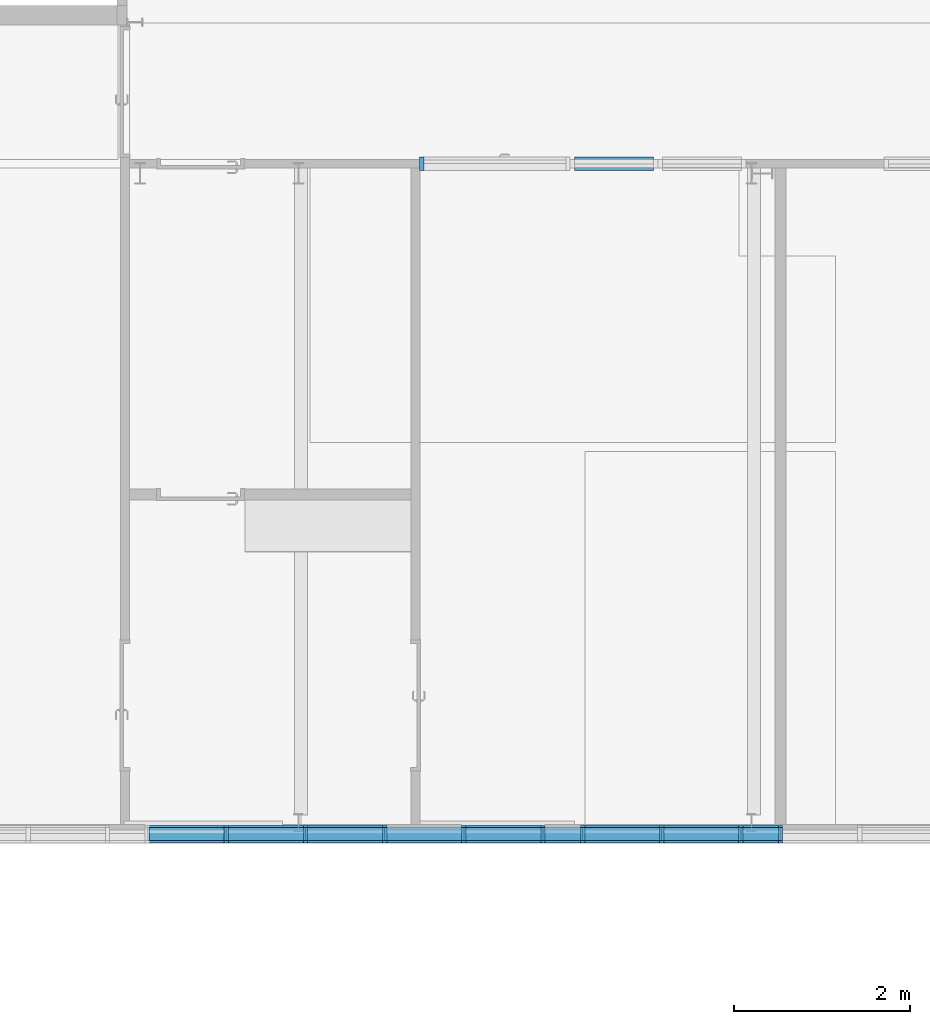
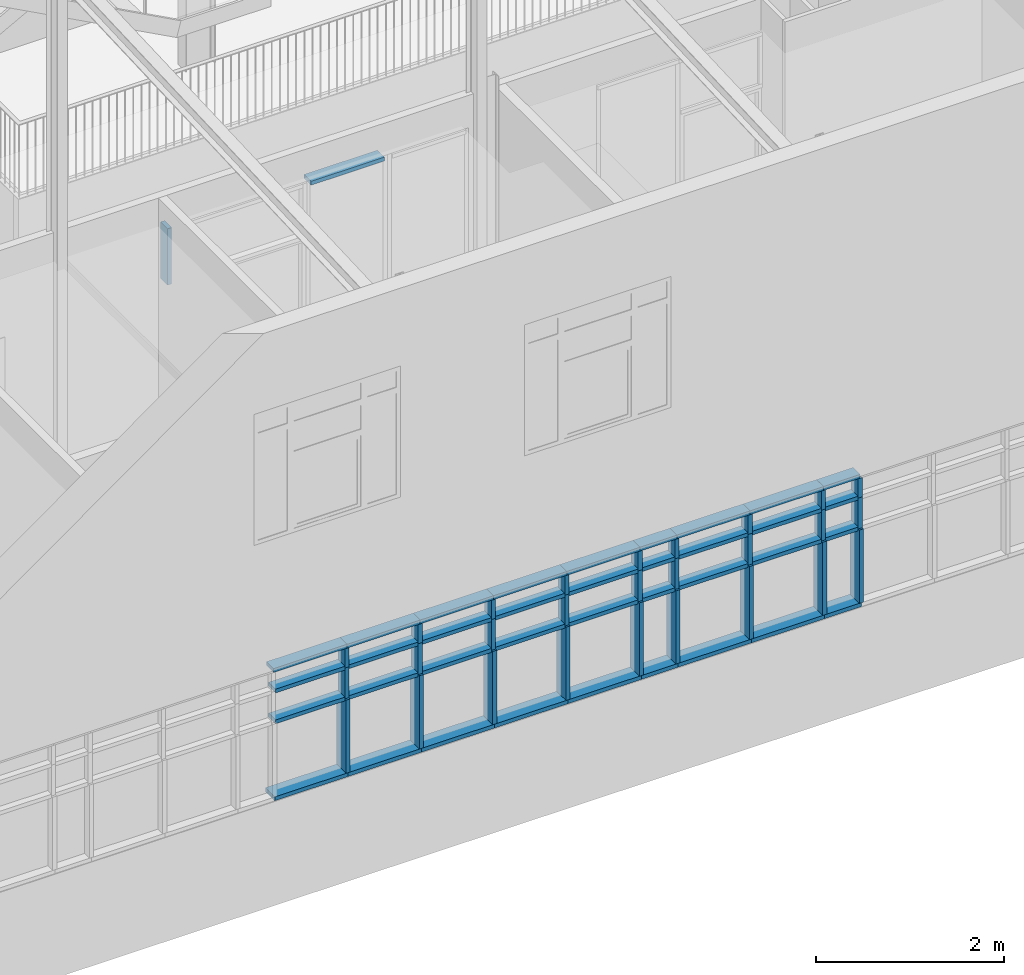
# One storey, part 20 of 137: 65 members, 3 elements without a shape of their own.
"""IFC2X3 building model written with IfcOpenShell, lengths in centimetres."""

import ifcopenshell
import ifcopenshell.guid

model = None  # the IFC model being written
_history = None  # IfcOwnerHistory: only IFC2X3 demands one
_inside = {}  # id of a spatial element -> (the spatial element, [elements in it])
_under = {}  # id of a project, library or spatial element -> (it, [spatial elements below it])
_declared = {}  # id of a project -> (the project, [libraries it declares])
_typed = {}  # id of a type object -> (the type object, [elements of that type])
_made_of = {}  # id of a material, layer set ... -> (it, [elements and type objects made of it])


def new_model(schema):
    """Start an empty IFC model of exactly this schema.

    Asked for "IFC4X3", IfcOpenShell would pick the latest addendum, in which some entities
    have other attributes; the version numbers below select the first issue.
    IFC2X3 requires an IfcOwnerHistory on every rooted entity: one is made here for all.
    """
    global model, _history
    if schema == "IFC4X3":
        model = ifcopenshell.file(schema_version=(4, 3, 0, 0))
    else:
        model = ifcopenshell.file(schema=schema)
    _inside.clear()
    _under.clear()
    _declared.clear()
    _typed.clear()
    _made_of.clear()
    _history = None
    if model.schema == "IFC2X3":
        org = make("IfcOrganization", Name="unknown")
        user = make(
            "IfcPersonAndOrganization",
            ThePerson=make("IfcPerson", FamilyName="unknown"),
            TheOrganization=org,
        )
        app = make(
            "IfcApplication",
            ApplicationDeveloper=org,
            Version="unknown",
            ApplicationFullName="unknown",
            ApplicationIdentifier="unknown",
        )
        _history = make(
            "IfcOwnerHistory",
            OwningUser=user,
            OwningApplication=app,
            ChangeAction="ADDED",
            CreationDate=0,
        )
    return model


def make(cls, **values):
    """One entity of the class cls with the attributes given. An attribute that is None is left unset."""
    return model.create_entity(
        cls, **{name: value for name, value in values.items() if value is not None}
    )


def entity(cls, *values):
    """Any entity or typed value of the class cls, its attributes in the order of the schema. None: left unset."""
    e = model.create_entity(cls)
    for i, value in enumerate(values):
        if value is not None:
            e[i] = value
    return e


def rooted(cls, **values):
    """An entity with a GlobalId (a new one), such as an element, a storey or a relation."""
    return make(cls, GlobalId=ifcopenshell.guid.new(), OwnerHistory=_history, **values)


def si_unit(unit_type, name, prefix=None):
    """IfcSIUnit, for example si_unit("LENGTHUNIT", "METRE", prefix="MILLI")."""
    return make("IfcSIUnit", UnitType=unit_type, Prefix=prefix, Name=name)


def converted_unit(unit_type, name, factor, base, dimensions=None, offset=None):
    """IfcConversionBasedUnit, such as the inch: factor (a typed value) times the base unit."""
    return make(
        "IfcConversionBasedUnit"
        if offset is None
        else "IfcConversionBasedUnitWithOffset",
        ConversionOffset=offset,
        Dimensions=None
        if dimensions is None
        else entity("IfcDimensionalExponents", *dimensions),
        UnitType=unit_type,
        Name=name,
        ConversionFactor=make(
            "IfcMeasureWithUnit", ValueComponent=factor, UnitComponent=base
        ),
    )


def derived_unit(unit_type, elements):
    """IfcDerivedUnit: a product of units, each with its exponent."""
    return make(
        "IfcDerivedUnit",
        Elements=[
            make("IfcDerivedUnitElement", Unit=unit, Exponent=power)
            for unit, power in elements
        ],
        UnitType=unit_type,
    )


def assignment(units):
    """IfcUnitAssignment: the units of a project."""
    return None if units is None else make("IfcUnitAssignment", Units=units)


def point(xyz):
    """IfcCartesianPoint."""
    return None if xyz is None else make("IfcCartesianPoint", Coordinates=xyz)


def direction(xyz):
    """IfcDirection."""
    return None if xyz is None else make("IfcDirection", DirectionRatios=xyz)


def frame(location, z_axis=None, x_axis=None):
    """IfcAxis2Placement3D, a coordinate frame: its origin and axes. An axis left out is left unset."""
    return make(
        "IfcAxis2Placement3D",
        Location=point(location),
        Axis=direction(z_axis),
        RefDirection=direction(x_axis),
    )


def frame_2d(location, x_axis=None):
    """IfcAxis2Placement2D, a coordinate frame in the plane: its origin and x axis."""
    return make(
        "IfcAxis2Placement2D", Location=point(location), RefDirection=direction(x_axis)
    )


def origin():
    """The frame at (0, 0, 0) with its axes left unset."""
    return frame((0.0, 0.0, 0.0))


def origin_2d_with_axis():
    """The frame at (0, 0) in the plane with the x axis (1, 0) written out."""
    return frame_2d((0.0, 0.0), x_axis=(1.0, 0.0))


def place(relative_to, where):
    """IfcLocalPlacement: puts the frame where relative to a parent placement (None: the world)."""
    return make(
        "IfcLocalPlacement", PlacementRelTo=relative_to, RelativePlacement=where
    )


def context(
    kind, dimensions, precision=None, world=None, true_north=None, identifier=None
):
    """IfcGeometricRepresentationContext, for example the 3D "Model" context."""
    return make(
        "IfcGeometricRepresentationContext",
        ContextIdentifier=identifier,
        ContextType=kind,
        CoordinateSpaceDimension=dimensions,
        Precision=precision,
        WorldCoordinateSystem=world,
        TrueNorth=true_north,
    )


def subcontext(parent, identifier, kind, view, scale=None):
    """IfcGeometricRepresentationSubContext, for example "Body" below "Model"."""
    return make(
        "IfcGeometricRepresentationSubContext",
        ContextIdentifier=identifier,
        ContextType=kind,
        ParentContext=parent,
        TargetScale=scale,
        TargetView=view,
    )


def project(units=None, contexts=None):
    """IfcProject with its units and contexts."""
    return rooted(
        "IfcProject",
        Name="project",
        RepresentationContexts=contexts,
        UnitsInContext=assignment(units),
    )


def spatial(cls, under=None, at=None, **own):
    """A site, building, storey or space (cls), placed at a placement, below another one or the project."""
    s = rooted(cls, ObjectPlacement=at, **own)
    if under is not None:
        _under.setdefault(under.id(), (under, []))[1].append(s)
    return s


def profile(cls, at=None, kind="AREA", **sizes):
    """A parametric profile (cls). Its sizes go by their IFC names, for example OverallWidth=200.0."""
    return make(cls, ProfileType=kind, Position=at, **sizes)


def rectangle(**sizes):
    """IfcRectangleProfileDef."""
    return profile("IfcRectangleProfileDef", **sizes)


def extrude(swept, where, along, depth):
    """IfcExtrudedAreaSolid: the profile swept, set in the frame where, extruded along a direction by depth."""
    return make(
        "IfcExtrudedAreaSolid",
        SweptArea=swept,
        Position=where,
        ExtrudedDirection=direction(along),
        Depth=depth,
    )


def shape(context_of_items, identifier, shape_type, items):
    """IfcShapeRepresentation: the items that make up one representation, for example the "Body"."""
    return make(
        "IfcShapeRepresentation",
        ContextOfItems=context_of_items,
        RepresentationIdentifier=identifier,
        RepresentationType=shape_type,
        Items=items,
    )


def material(Name=None, Category=None):
    """IfcMaterial."""
    return make("IfcMaterial", Name=Name, Category=Category)


def made_of(thing, what):
    """Note that an element or type object is made of a material, layer set ...; save() writes the relation."""
    if what is not None:
        _made_of.setdefault(what.id(), (what, []))[1].append(thing)
    return thing


def type_object(cls, material=None, **own):
    """A type object (cls), such as IfcWallType, which elements share."""
    return made_of(rooted(cls, **own), material)


def element(
    cls,
    number,
    at=None,
    inside=None,
    cuts=None,
    type_object=None,
    material=None,
    context=None,
    identifier="Body",
    shape_type=None,
    held_by="IfcProductDefinitionShape",
    body=None,
    shapes=None,
    **own,
):
    """One element of the class cls, such as IfcWall. Its Tag is "e" and its number.

    at: its placement. inside: the storey or other place that contains it. cuts: it is an
    opening in that element (IfcRelVoidsElement). A single representation is given by context,
    identifier, shape_type and body (its items); several are given by shapes. held_by: the class
    of the entity that holds the representations. save() writes the other relations.
    """
    e = rooted(cls, Tag="e%d" % number, ObjectPlacement=at, **own)
    if body is not None:
        shapes = [shape(context, identifier, shape_type, body)]
    if shapes is not None:
        e.Representation = make(held_by, Representations=shapes)
    if inside is not None:
        _inside.setdefault(inside.id(), (inside, []))[1].append(e)
    if cuts is not None:
        rooted(
            "IfcRelVoidsElement", RelatingBuildingElement=cuts, RelatedOpeningElement=e
        )
    if type_object is not None:
        _typed.setdefault(type_object.id(), (type_object, []))[1].append(e)
    return made_of(e, material)


def aggregate(whole, parts):
    """IfcRelAggregates: a whole, such as a stair, and the parts it consists of."""
    return rooted("IfcRelAggregates", RelatingObject=whole, RelatedObjects=parts)


def save(model, path):
    """Write the relations noted so far, then the file.

    IfcRelAggregates (storeys below a building ...), IfcRelContainedInSpatialStructure (elements
    in a storey), IfcRelDefinesByType, IfcRelAssociatesMaterial and IfcRelDeclares: one each for
    every whole, place, type object, material and project.
    """
    for whole, parts in _under.values():
        aggregate(whole, parts)
    for where, things in _inside.values():
        rooted(
            "IfcRelContainedInSpatialStructure",
            RelatedElements=things,
            RelatingStructure=where,
        )
    for kind, things in _typed.values():
        rooted("IfcRelDefinesByType", RelatedObjects=things, RelatingType=kind)
    for what, things in _made_of.values():
        rooted("IfcRelAssociatesMaterial", RelatedObjects=things, RelatingMaterial=what)
    for by, libraries in _declared.values():
        rooted("IfcRelDeclares", RelatingContext=by, RelatedDefinitions=libraries)
    model.write(path)


model = new_model("IFC2X3")

# Units and contexts
model_context = context("Model", 3, precision=0.001, world=origin(), true_north=direction((6.12303176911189e-17, 1.0)))
body_context = subcontext(model_context, "Body", "Model", "MODEL_VIEW")
ifc_project = project(units=[si_unit("LENGTHUNIT", "METRE", prefix="CENTI"), si_unit("AREAUNIT", "SQUARE_METRE"), si_unit("VOLUMEUNIT", "CUBIC_METRE"), converted_unit("PLANEANGLEUNIT", "DEGREE", entity("IfcRatioMeasure", 0.0174532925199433), si_unit("PLANEANGLEUNIT", "RADIAN"), dimensions=[0, 0, 0, 0, 0, 0, 0]), si_unit("MASSUNIT", "GRAM", prefix="KILO"), si_unit("TIMEUNIT", "SECOND"), si_unit("FREQUENCYUNIT", "HERTZ"), si_unit("THERMODYNAMICTEMPERATUREUNIT", "DEGREE_CELSIUS"), derived_unit("THERMALTRANSMITTANCEUNIT", [(si_unit("MASSUNIT", "GRAM", prefix="KILO"), 1), (si_unit("THERMODYNAMICTEMPERATUREUNIT", "KELVIN"), -1), (si_unit("TIMEUNIT", "SECOND"), -3)]), derived_unit("VOLUMETRICFLOWRATEUNIT", [(si_unit("LENGTHUNIT", "METRE"), 3), (si_unit("TIMEUNIT", "SECOND"), -1)]), si_unit("ELECTRICCURRENTUNIT", "AMPERE"), si_unit("ELECTRICVOLTAGEUNIT", "VOLT"), si_unit("POWERUNIT", "WATT"), si_unit("FORCEUNIT", "NEWTON", prefix="KILO"), si_unit("ILLUMINANCEUNIT", "LUX"), si_unit("LUMINOUSFLUXUNIT", "LUMEN"), si_unit("LUMINOUSINTENSITYUNIT", "CANDELA"), derived_unit("USERDEFINED", [(si_unit("MASSUNIT", "GRAM", prefix="KILO"), -1), (si_unit("LENGTHUNIT", "METRE"), -2), (si_unit("TIMEUNIT", "SECOND"), 3), (si_unit("LUMINOUSFLUXUNIT", "LUMEN"), 1)]), derived_unit("LINEARVELOCITYUNIT", [(si_unit("LENGTHUNIT", "METRE"), 1), (si_unit("TIMEUNIT", "SECOND"), -1)]), si_unit("PRESSUREUNIT", "PASCAL"), derived_unit("USERDEFINED", [(si_unit("LENGTHUNIT", "METRE"), -2), (si_unit("MASSUNIT", "GRAM", prefix="KILO"), 1), (si_unit("TIMEUNIT", "SECOND"), -2)])], contexts=[model_context])

# Site, building, storey
site_placement = place(None, frame((8.62739174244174, -249.285249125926, 0.0)))
site = spatial("IfcSite", under=ifc_project, at=site_placement, Name="Default", CompositionType="ELEMENT")
building_placement = place(site_placement, origin())
building = spatial("IfcBuilding", under=site, at=building_placement, CompositionType="ELEMENT")
storey_placement = place(building_placement, origin())
storey = spatial("IfcBuildingStorey", under=building, at=storey_placement, Name="RDC", CompositionType="ELEMENT", Elevation=-8.82465566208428e-11)

# Curtain wall, members
curtain_wall_type = type_object("IfcCurtainWallType", Name="Mur-rideau:Simple panneau", PredefinedType="NOTDEFINED")
curtain_wall_1_placement = place(storey_placement, origin())
curtain_wall_1 = element("IfcCurtainWall", 1, at=curtain_wall_1_placement, inside=storey, type_object=curtain_wall_type, Name="Mur-rideau:Simple panneau", ObjectType="Mur-rideau:Simple panneau")
ifc_material = material(Name="Plastique, blanc opaque")
member_1_placement = place(curtain_wall_1_placement, origin())
member_1 = element("IfcMember", 2, at=member_1_placement, material=ifc_material, Name="Mur-rideau:Simple panneau", ObjectType="Mur-rideau:Simple panneau", context=body_context, shape_type="SweptSolid", body=[
    extrude(rectangle(XDim=5.0, YDim=20.0, at=frame_2d((0.0, 2.91322521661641e-13), x_axis=(1.0, 0.0))), frame((874.0, 11.0, 112.500000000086), z_axis=(1.0, 0.0, 0.0), x_axis=(0.0, 0.0, -1.0)), (0.0, 0.0, 1.0), 90.0000000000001),
])
member_2_placement = place(curtain_wall_1_placement, origin())
member_2 = element("IfcMember", 3, at=member_2_placement, material=ifc_material, Name="Mur-rideau:Simple panneau:661", ObjectType="Mur-rideau:Simple panneau:661", context=body_context, shape_type="SweptSolid", body=[
    extrude(rectangle(XDim=5.0, YDim=15.0, at=frame_2d((2.70894418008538e-14, 2.90878432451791e-13), x_axis=(1.0, 0.0))), frame((964.0, 11.0, 277.500000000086), z_axis=(-1.0, 0.0, 0.0), x_axis=(0.0, 0.0, -1.0)), (0.0, 0.0, 1.0), 89.9999999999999),
])
member_3_placement = place(curtain_wall_1_placement, origin())
member_3 = element("IfcMember", 4, at=member_3_placement, material=ifc_material, Name="Mur-rideau:Simple panneau", ObjectType="Mur-rideau:Simple panneau", context=body_context, shape_type="SweptSolid", body=[
    extrude(rectangle(XDim=5.0, YDim=20.0, at=frame_2d((0.0, 2.91322521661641e-13), x_axis=(1.0, 0.0))), frame((964.0, 11.0, 112.500000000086), z_axis=(1.0, 0.0, 0.0), x_axis=(0.0, 0.0, -1.0)), (0.0, 0.0, 1.0), 90.0000000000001),
])
member_4_placement = place(curtain_wall_1_placement, origin())
member_4 = element("IfcMember", 5, at=member_4_placement, material=ifc_material, Name="Mur-rideau:Simple panneau:661", ObjectType="Mur-rideau:Simple panneau:661", context=body_context, shape_type="SweptSolid", body=[
    extrude(rectangle(XDim=5.0, YDim=15.0, at=frame_2d((2.70894418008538e-14, 2.90878432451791e-13), x_axis=(1.0, 0.0))), frame((1054.0, 11.0, 277.500000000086), z_axis=(-1.0, 0.0, 0.0), x_axis=(0.0, 0.0, -1.0)), (0.0, 0.0, 1.0), 89.9999999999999),
])
member_5_placement = place(curtain_wall_1_placement, origin())
member_5 = element("IfcMember", 6, at=member_5_placement, material=ifc_material, Name="Mur-rideau:Simple panneau", ObjectType="Mur-rideau:Simple panneau", context=body_context, shape_type="SweptSolid", body=[
    extrude(rectangle(XDim=5.0, YDim=20.0, at=frame_2d((0.0, 2.91322521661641e-13), x_axis=(1.0, 0.0))), frame((1054.0, 11.0, 112.500000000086), z_axis=(1.0, 0.0, 0.0), x_axis=(0.0, 0.0, -1.0)), (0.0, 0.0, 1.0), 90.0),
])
member_6_placement = place(curtain_wall_1_placement, origin())
member_6 = element("IfcMember", 7, at=member_6_placement, material=ifc_material, Name="Mur-rideau:Simple panneau:661", ObjectType="Mur-rideau:Simple panneau:661", context=body_context, shape_type="SweptSolid", body=[
    extrude(rectangle(XDim=5.0, YDim=15.0, at=frame_2d((2.70894418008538e-14, 2.90878432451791e-13), x_axis=(1.0, 0.0))), frame((1144.0, 11.0, 277.500000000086), z_axis=(-1.0, 0.0, 0.0), x_axis=(0.0, 0.0, -1.0)), (0.0, 0.0, 1.0), 89.9999999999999),
])
member_7_placement = place(curtain_wall_1_placement, origin())
member_7 = element("IfcMember", 8, at=member_7_placement, material=ifc_material, Name="Mur-rideau:Simple panneau", ObjectType="Mur-rideau:Simple panneau", context=body_context, shape_type="SweptSolid", body=[
    extrude(rectangle(XDim=5.0, YDim=20.0, at=frame_2d((0.0, 2.91322521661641e-13), x_axis=(1.0, 0.0))), frame((1144.0, 11.0, 112.500000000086), z_axis=(1.0, 0.0, 0.0), x_axis=(0.0, 0.0, -1.0)), (0.0, 0.0, 1.0), 90.0),
])
member_8_placement = place(curtain_wall_1_placement, origin())
member_8 = element("IfcMember", 9, at=member_8_placement, material=ifc_material, Name="Mur-rideau:Simple panneau:661", ObjectType="Mur-rideau:Simple panneau:661", context=body_context, shape_type="SweptSolid", body=[
    extrude(rectangle(XDim=5.0, YDim=15.0, at=frame_2d((2.70894418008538e-14, 2.90878432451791e-13), x_axis=(1.0, 0.0))), frame((1234.0, 11.0, 277.500000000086), z_axis=(-1.0, 0.0, 0.0), x_axis=(0.0, 0.0, -1.0)), (0.0, 0.0, 1.0), 89.9999999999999),
])
member_9_placement = place(curtain_wall_1_placement, origin())
member_9 = element("IfcMember", 10, at=member_9_placement, material=ifc_material, Name="Mur-rideau:Simple panneau", ObjectType="Mur-rideau:Simple panneau", context=body_context, shape_type="SweptSolid", body=[
    extrude(rectangle(XDim=5.0, YDim=20.0, at=frame_2d((0.0, 2.91322521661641e-13), x_axis=(1.0, 0.0))), frame((1234.0, 11.0, 112.500000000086), z_axis=(1.0, 0.0, 0.0), x_axis=(0.0, 0.0, -1.0)), (0.0, 0.0, 1.0), 90.0),
])
member_10_placement = place(curtain_wall_1_placement, origin())
member_10 = element("IfcMember", 11, at=member_10_placement, material=ifc_material, Name="Mur-rideau:Simple panneau:661", ObjectType="Mur-rideau:Simple panneau:661", context=body_context, shape_type="SweptSolid", body=[
    extrude(rectangle(XDim=5.0, YDim=15.0, at=frame_2d((2.70894418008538e-14, 2.90878432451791e-13), x_axis=(1.0, 0.0))), frame((1324.0, 11.0, 277.500000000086), z_axis=(-1.0, 0.0, 0.0), x_axis=(0.0, 0.0, -1.0)), (0.0, 0.0, 1.0), 89.9999999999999),
])
member_11_placement = place(curtain_wall_1_placement, origin())
member_11 = element("IfcMember", 12, at=member_11_placement, material=ifc_material, Name="Mur-rideau:Simple panneau", ObjectType="Mur-rideau:Simple panneau", context=body_context, shape_type="SweptSolid", body=[
    extrude(rectangle(XDim=5.0, YDim=20.0, at=frame_2d((0.0, 1.45661260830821e-13), x_axis=(1.0, 0.0))), frame((1324.0, 11.0, 112.500000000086), z_axis=(1.0, 0.0, 0.0), x_axis=(0.0, 0.0, -1.0)), (0.0, 0.0, 1.0), 45.0),
])
member_12_placement = place(curtain_wall_1_placement, origin())
member_12 = element("IfcMember", 13, at=member_12_placement, material=ifc_material, Name="Mur-rideau:Simple panneau:661", ObjectType="Mur-rideau:Simple panneau:661", context=body_context, shape_type="SweptSolid", body=[
    extrude(rectangle(XDim=5.0, YDim=15.0, at=frame_2d((2.70894418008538e-14, 1.4521717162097e-13), x_axis=(1.0, 0.0))), frame((1369.0, 11.0, 277.500000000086), z_axis=(-1.0, 0.0, 0.0), x_axis=(0.0, 0.0, -1.0)), (0.0, 0.0, 1.0), 45.0000000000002),
])
member_13_placement = place(curtain_wall_1_placement, origin())
member_13 = element("IfcMember", 14, at=member_13_placement, material=ifc_material, Name="Mur-rideau:Simple panneau", ObjectType="Mur-rideau:Simple panneau", context=body_context, shape_type="SweptSolid", body=[
    extrude(rectangle(XDim=5.0, YDim=20.0, at=frame_2d((0.0, 2.91322521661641e-13), x_axis=(1.0, 0.0))), frame((1369.0, 11.0, 112.500000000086), z_axis=(1.0, 0.0, 0.0), x_axis=(0.0, 0.0, -1.0)), (0.0, 0.0, 1.0), 90.0),
])
member_14_placement = place(curtain_wall_1_placement, origin())
member_14 = element("IfcMember", 15, at=member_14_placement, material=ifc_material, Name="Mur-rideau:Simple panneau:661", ObjectType="Mur-rideau:Simple panneau:661", context=body_context, shape_type="SweptSolid", body=[
    extrude(rectangle(XDim=5.0, YDim=15.0, at=frame_2d((2.70894418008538e-14, 2.92654789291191e-13), x_axis=(1.0, 0.0))), frame((1459.0, 11.0, 277.500000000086), z_axis=(-1.0, 0.0, 0.0), x_axis=(0.0, 0.0, -1.0)), (0.0, 0.0, 1.0), 89.9999999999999),
])
member_15_placement = place(curtain_wall_1_placement, origin())
member_15 = element("IfcMember", 16, at=member_15_placement, material=ifc_material, Name="Mur-rideau:Simple panneau", ObjectType="Mur-rideau:Simple panneau", context=body_context, shape_type="SweptSolid", body=[
    extrude(rectangle(XDim=5.0, YDim=20.0, at=frame_2d((0.0, 2.91322521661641e-13), x_axis=(1.0, 0.0))), frame((1459.0, 11.0, 112.500000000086), z_axis=(1.0, 0.0, 0.0), x_axis=(0.0, 0.0, -1.0)), (0.0, 0.0, 1.0), 90.0),
])
member_16_placement = place(curtain_wall_1_placement, origin())
member_16 = element("IfcMember", 17, at=member_16_placement, material=ifc_material, Name="Mur-rideau:Simple panneau:661", ObjectType="Mur-rideau:Simple panneau:661", context=body_context, shape_type="SweptSolid", body=[
    extrude(rectangle(XDim=5.0, YDim=15.0, at=frame_2d((2.70894418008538e-14, 2.88213897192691e-13), x_axis=(1.0, 0.0))), frame((1549.0, 11.0, 277.500000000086), z_axis=(-1.0, 0.0, 0.0), x_axis=(0.0, 0.0, -1.0)), (0.0, 0.0, 1.0), 89.9999999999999),
])
member_17_placement = place(curtain_wall_1_placement, origin())
member_17 = element("IfcMember", 18, at=member_17_placement, material=ifc_material, Name="Mur-rideau:Simple panneau", ObjectType="Mur-rideau:Simple panneau", context=body_context, shape_type="SweptSolid", body=[
    extrude(rectangle(XDim=5.0, YDim=20.0, at=frame_2d((0.0, 1.4388490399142e-13), x_axis=(1.0, 0.0))), frame((1549.0, 11.0, 112.500000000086), z_axis=(1.0, 0.0, 0.0), x_axis=(0.0, 0.0, -1.0)), (0.0, 0.0, 1.0), 45.0),
])
member_18_placement = place(curtain_wall_1_placement, origin())
member_18 = element("IfcMember", 19, at=member_18_placement, material=ifc_material, Name="Mur-rideau:Simple panneau:661", ObjectType="Mur-rideau:Simple panneau:661", context=body_context, shape_type="SweptSolid", body=[
    extrude(rectangle(XDim=5.0, YDim=15.0, at=frame_2d((2.70894418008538e-14, 1.4432899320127e-13), x_axis=(1.0, 0.0))), frame((1594.0, 11.0, 277.500000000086), z_axis=(-1.0, 0.0, 0.0), x_axis=(0.0, 0.0, -1.0)), (0.0, 0.0, 1.0), 45.0000000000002),
])
member_19_placement = place(curtain_wall_1_placement, origin())
member_19 = element("IfcMember", 20, at=member_19_placement, material=ifc_material, Name="Mur-rideau:Simple panneau:661", ObjectType="Mur-rideau:Simple panneau:661", context=body_context, shape_type="SweptSolid", body=[
    extrude(rectangle(XDim=4.99999999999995, YDim=15.0, at=frame_2d((0.0, 1.30562227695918e-13), x_axis=(1.0, 0.0))), frame((1591.5, 11.0, 250.0), z_axis=(-1.0, 0.0, 0.0), x_axis=(0.0, 0.0, -1.0)), (0.0, 0.0, 1.0), 40.0000000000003),
])
member_20_placement = place(curtain_wall_1_placement, origin())
member_20 = element("IfcMember", 21, at=member_20_placement, material=ifc_material, Name="Mur-rideau:Simple panneau:661", ObjectType="Mur-rideau:Simple panneau:661", context=body_context, shape_type="SweptSolid", body=[
    extrude(rectangle(XDim=4.99999999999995, YDim=15.0, at=frame_2d((0.0, 2.72670774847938e-13), x_axis=(1.0, 0.0))), frame((1546.5, 11.0, 250.0), z_axis=(-1.0, 0.0, 0.0), x_axis=(0.0, 0.0, -1.0)), (0.0, 0.0, 1.0), 85.0),
])
member_21_placement = place(curtain_wall_1_placement, origin())
member_21 = element("IfcMember", 22, at=member_21_placement, material=ifc_material, Name="Mur-rideau:Simple panneau:661", ObjectType="Mur-rideau:Simple panneau:661", context=body_context, shape_type="SweptSolid", body=[
    extrude(rectangle(XDim=4.99999999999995, YDim=15.0, at=frame_2d((0.0, 2.74891220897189e-13), x_axis=(1.0, 0.0))), frame((1456.5, 11.0, 250.0), z_axis=(-1.0, 0.0, 0.0), x_axis=(0.0, 0.0, -1.0)), (0.0, 0.0, 1.0), 85.0),
])
member_22_placement = place(curtain_wall_1_placement, origin())
member_22 = element("IfcMember", 23, at=member_22_placement, material=ifc_material, Name="Mur-rideau:Simple panneau:661", ObjectType="Mur-rideau:Simple panneau:661", context=body_context, shape_type="SweptSolid", body=[
    extrude(rectangle(XDim=4.99999999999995, YDim=15.0, at=frame_2d((0.0, 1.29674049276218e-13), x_axis=(1.0, 0.0))), frame((1366.5, 11.0, 250.0), z_axis=(-1.0, 0.0, 0.0), x_axis=(0.0, 0.0, -1.0)), (0.0, 0.0, 1.0), 40.0000000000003),
])
member_23_placement = place(curtain_wall_1_placement, origin())
member_23 = element("IfcMember", 24, at=member_23_placement, material=ifc_material, Name="Mur-rideau:Simple panneau:661", ObjectType="Mur-rideau:Simple panneau:661", context=body_context, shape_type="SweptSolid", body=[
    extrude(rectangle(XDim=4.99999999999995, YDim=15.0, at=frame_2d((0.0, 2.73558953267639e-13), x_axis=(1.0, 0.0))), frame((1321.5, 11.0, 250.0), z_axis=(-1.0, 0.0, 0.0), x_axis=(0.0, 0.0, -1.0)), (0.0, 0.0, 1.0), 85.0),
])
member_24_placement = place(curtain_wall_1_placement, origin())
member_24 = element("IfcMember", 25, at=member_24_placement, material=ifc_material, Name="Mur-rideau:Simple panneau:661", ObjectType="Mur-rideau:Simple panneau:661", context=body_context, shape_type="SweptSolid", body=[
    extrude(rectangle(XDim=4.99999999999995, YDim=15.0, at=frame_2d((0.0, 2.73558953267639e-13), x_axis=(1.0, 0.0))), frame((1231.5, 11.0, 250.0), z_axis=(-1.0, 0.0, 0.0), x_axis=(0.0, 0.0, -1.0)), (0.0, 0.0, 1.0), 85.0),
])
member_25_placement = place(curtain_wall_1_placement, origin())
member_25 = element("IfcMember", 26, at=member_25_placement, material=ifc_material, Name="Mur-rideau:Simple panneau:661", ObjectType="Mur-rideau:Simple panneau:661", context=body_context, shape_type="SweptSolid", body=[
    extrude(rectangle(XDim=4.99999999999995, YDim=15.0, at=frame_2d((0.0, 2.73558953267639e-13), x_axis=(1.0, 0.0))), frame((1141.5, 11.0, 250.0), z_axis=(-1.0, 0.0, 0.0), x_axis=(0.0, 0.0, -1.0)), (0.0, 0.0, 1.0), 85.0),
])
member_26_placement = place(curtain_wall_1_placement, origin())
member_26 = element("IfcMember", 27, at=member_26_placement, material=ifc_material, Name="Mur-rideau:Simple panneau:661", ObjectType="Mur-rideau:Simple panneau:661", context=body_context, shape_type="SweptSolid", body=[
    extrude(rectangle(XDim=4.99999999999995, YDim=15.0, at=frame_2d((0.0, 2.73558953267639e-13), x_axis=(1.0, 0.0))), frame((1051.5, 11.0, 250.0), z_axis=(-1.0, 0.0, 0.0), x_axis=(0.0, 0.0, -1.0)), (0.0, 0.0, 1.0), 85.0),
])
member_27_placement = place(curtain_wall_1_placement, origin())
member_27 = element("IfcMember", 28, at=member_27_placement, material=ifc_material, Name="Mur-rideau:Simple panneau:661", ObjectType="Mur-rideau:Simple panneau:661", context=body_context, shape_type="SweptSolid", body=[
    extrude(rectangle(XDim=4.99999999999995, YDim=15.0, at=frame_2d((0.0, 2.73558953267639e-13), x_axis=(1.0, 0.0))), frame((961.5, 11.0, 250.0), z_axis=(-1.0, 0.0, 0.0), x_axis=(0.0, 0.0, -1.0)), (0.0, 0.0, 1.0), 85.0),
])
member_28_placement = place(curtain_wall_1_placement, origin())
member_28 = element("IfcMember", 29, at=member_28_placement, material=ifc_material, Name="Mur-rideau:Simple panneau:661", ObjectType="Mur-rideau:Simple panneau:661", context=body_context, shape_type="SweptSolid", body=[
    extrude(rectangle(XDim=5.0, YDim=15.0, at=frame_2d((0.0, 1.30562227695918e-13), x_axis=(1.0, 0.0))), frame((1591.5, 11.0, 210.0), z_axis=(-1.0, 0.0, 0.0), x_axis=(0.0, 0.0, -1.0)), (0.0, 0.0, 1.0), 40.0000000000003),
])
member_29_placement = place(curtain_wall_1_placement, origin())
member_29 = element("IfcMember", 30, at=member_29_placement, material=ifc_material, Name="Mur-rideau:Simple panneau:661", ObjectType="Mur-rideau:Simple panneau:661", context=body_context, shape_type="SweptSolid", body=[
    extrude(rectangle(XDim=5.0, YDim=15.0, at=frame_2d((0.0, 2.72670774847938e-13), x_axis=(1.0, 0.0))), frame((1546.5, 11.0, 210.0), z_axis=(-1.0, 0.0, 0.0), x_axis=(0.0, 0.0, -1.0)), (0.0, 0.0, 1.0), 85.0),
])
member_30_placement = place(curtain_wall_1_placement, origin())
member_30 = element("IfcMember", 31, at=member_30_placement, material=ifc_material, Name="Mur-rideau:Simple panneau:661", ObjectType="Mur-rideau:Simple panneau:661", context=body_context, shape_type="SweptSolid", body=[
    extrude(rectangle(XDim=5.0, YDim=15.0, at=frame_2d((0.0, 2.74891220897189e-13), x_axis=(1.0, 0.0))), frame((1456.5, 11.0, 210.0), z_axis=(-1.0, 0.0, 0.0), x_axis=(0.0, 0.0, -1.0)), (0.0, 0.0, 1.0), 85.0),
])
member_31_placement = place(curtain_wall_1_placement, origin())
member_31 = element("IfcMember", 32, at=member_31_placement, material=ifc_material, Name="Mur-rideau:Simple panneau:661", ObjectType="Mur-rideau:Simple panneau:661", context=body_context, shape_type="SweptSolid", body=[
    extrude(rectangle(XDim=5.0, YDim=15.0, at=frame_2d((0.0, 1.29674049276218e-13), x_axis=(1.0, 0.0))), frame((1366.5, 11.0, 210.0), z_axis=(-1.0, 0.0, 0.0), x_axis=(0.0, 0.0, -1.0)), (0.0, 0.0, 1.0), 40.0000000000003),
])
member_32_placement = place(curtain_wall_1_placement, origin())
member_32 = element("IfcMember", 33, at=member_32_placement, material=ifc_material, Name="Mur-rideau:Simple panneau:661", ObjectType="Mur-rideau:Simple panneau:661", context=body_context, shape_type="SweptSolid", body=[
    extrude(rectangle(XDim=5.0, YDim=15.0, at=frame_2d((0.0, 2.73558953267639e-13), x_axis=(1.0, 0.0))), frame((1321.5, 11.0, 210.0), z_axis=(-1.0, 0.0, 0.0), x_axis=(0.0, 0.0, -1.0)), (0.0, 0.0, 1.0), 85.0),
])
member_33_placement = place(curtain_wall_1_placement, origin())
member_33 = element("IfcMember", 34, at=member_33_placement, material=ifc_material, Name="Mur-rideau:Simple panneau:661", ObjectType="Mur-rideau:Simple panneau:661", context=body_context, shape_type="SweptSolid", body=[
    extrude(rectangle(XDim=5.0, YDim=15.0, at=frame_2d((0.0, 2.73558953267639e-13), x_axis=(1.0, 0.0))), frame((1231.5, 11.0, 210.0), z_axis=(-1.0, 0.0, 0.0), x_axis=(0.0, 0.0, -1.0)), (0.0, 0.0, 1.0), 85.0),
])
member_34_placement = place(curtain_wall_1_placement, origin())
member_34 = element("IfcMember", 35, at=member_34_placement, material=ifc_material, Name="Mur-rideau:Simple panneau:661", ObjectType="Mur-rideau:Simple panneau:661", context=body_context, shape_type="SweptSolid", body=[
    extrude(rectangle(XDim=5.0, YDim=15.0, at=frame_2d((0.0, 2.73558953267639e-13), x_axis=(1.0, 0.0))), frame((1141.5, 11.0, 210.0), z_axis=(-1.0, 0.0, 0.0), x_axis=(0.0, 0.0, -1.0)), (0.0, 0.0, 1.0), 85.0),
])
member_35_placement = place(curtain_wall_1_placement, origin())
member_35 = element("IfcMember", 36, at=member_35_placement, material=ifc_material, Name="Mur-rideau:Simple panneau:661", ObjectType="Mur-rideau:Simple panneau:661", context=body_context, shape_type="SweptSolid", body=[
    extrude(rectangle(XDim=5.0, YDim=15.0, at=frame_2d((0.0, 2.73558953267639e-13), x_axis=(1.0, 0.0))), frame((1051.5, 11.0, 210.0), z_axis=(-1.0, 0.0, 0.0), x_axis=(0.0, 0.0, -1.0)), (0.0, 0.0, 1.0), 85.0),
])
member_36_placement = place(curtain_wall_1_placement, origin())
member_36 = element("IfcMember", 37, at=member_36_placement, material=ifc_material, Name="Mur-rideau:Simple panneau:661", ObjectType="Mur-rideau:Simple panneau:661", context=body_context, shape_type="SweptSolid", body=[
    extrude(rectangle(XDim=5.0, YDim=15.0, at=frame_2d((0.0, 2.73558953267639e-13), x_axis=(1.0, 0.0))), frame((961.5, 11.0, 210.0), z_axis=(-1.0, 0.0, 0.0), x_axis=(0.0, 0.0, -1.0)), (0.0, 0.0, 1.0), 85.0),
])
member_37_placement = place(curtain_wall_1_placement, origin())
member_37 = element("IfcMember", 38, at=member_37_placement, material=ifc_material, Name="Mur-rideau:Simple panneau:661", ObjectType="Mur-rideau:Simple panneau:661", context=body_context, shape_type="SweptSolid", body=[
    extrude(rectangle(XDim=4.99999999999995, YDim=15.0, at=frame_2d((0.0, 1.33226762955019e-15), x_axis=(1.0, 0.0))), frame((964.0, 11.0, 250.0), z_axis=(0.0, 0.0, 1.0), x_axis=(-1.0, 0.0, 0.0)), (0.0, 0.0, 1.0), 25.0),
])
member_38_placement = place(curtain_wall_1_placement, origin())
member_38 = element("IfcMember", 39, at=member_38_placement, material=ifc_material, Name="Mur-rideau:Simple panneau:661", ObjectType="Mur-rideau:Simple panneau:661", context=body_context, shape_type="SweptSolid", body=[
    extrude(rectangle(XDim=4.99999999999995, YDim=15.0, at=frame_2d((0.0, 2.22044604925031e-15), x_axis=(1.0, 0.0))), frame((964.0, 11.0, 210.0), z_axis=(0.0, 0.0, 1.0), x_axis=(-1.0, 0.0, 0.0)), (0.0, 0.0, 1.0), 40.0),
])
member_39_placement = place(curtain_wall_1_placement, origin())
member_39 = element("IfcMember", 40, at=member_39_placement, material=ifc_material, Name="Mur-rideau:Simple panneau", ObjectType="Mur-rideau:Simple panneau", context=body_context, shape_type="SweptSolid", body=[
    extrude(rectangle(XDim=4.99999999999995, YDim=20.0, at=frame_2d((-1.08357767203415e-13, 1.77635683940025e-15), x_axis=(1.0, 0.0))), frame((964.0, 11.0, 115.0), z_axis=(0.0, 0.0, 1.0), x_axis=(-1.0, 0.0, 0.0)), (0.0, 0.0, 1.0), 95.0),
])
member_40_placement = place(curtain_wall_1_placement, origin())
member_40 = element("IfcMember", 41, at=member_40_placement, material=ifc_material, Name="Mur-rideau:Simple panneau:661", ObjectType="Mur-rideau:Simple panneau:661", context=body_context, shape_type="SweptSolid", body=[
    extrude(rectangle(XDim=5.00000000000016, YDim=15.0, at=frame_2d((0.0, 1.33226762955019e-15), x_axis=(1.0, 0.0))), frame((1054.0, 11.0, 250.0), z_axis=(0.0, 0.0, 1.0), x_axis=(-1.0, 0.0, 0.0)), (0.0, 0.0, 1.0), 25.0),
])
member_41_placement = place(curtain_wall_1_placement, origin())
member_41 = element("IfcMember", 42, at=member_41_placement, material=ifc_material, Name="Mur-rideau:Simple panneau:661", ObjectType="Mur-rideau:Simple panneau:661", context=body_context, shape_type="SweptSolid", body=[
    extrude(rectangle(XDim=5.00000000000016, YDim=15.0, at=frame_2d((0.0, 2.22044604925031e-15), x_axis=(1.0, 0.0))), frame((1054.0, 11.0, 210.0), z_axis=(0.0, 0.0, 1.0), x_axis=(-1.0, 0.0, 0.0)), (0.0, 0.0, 1.0), 40.0),
])
member_42_placement = place(curtain_wall_1_placement, origin())
member_42 = element("IfcMember", 43, at=member_42_placement, material=ifc_material, Name="Mur-rideau:Simple panneau", ObjectType="Mur-rideau:Simple panneau", context=body_context, shape_type="SweptSolid", body=[
    extrude(rectangle(XDim=5.00000000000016, YDim=20.0, at=frame_2d((0.0, 1.77635683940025e-15), x_axis=(1.0, 0.0))), frame((1054.0, 11.0, 115.0), z_axis=(0.0, 0.0, 1.0), x_axis=(-1.0, 0.0, 0.0)), (0.0, 0.0, 1.0), 95.0),
])
member_43_placement = place(curtain_wall_1_placement, origin())
member_43 = element("IfcMember", 44, at=member_43_placement, material=ifc_material, Name="Mur-rideau:Simple panneau:661", ObjectType="Mur-rideau:Simple panneau:661", context=body_context, shape_type="SweptSolid", body=[
    extrude(rectangle(XDim=5.00000000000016, YDim=15.0, at=frame_2d((-2.16715534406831e-13, 1.33226762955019e-15), x_axis=(1.0, 0.0))), frame((1144.0, 11.0, 250.0), z_axis=(0.0, 0.0, 1.0), x_axis=(-1.0, 0.0, 0.0)), (0.0, 0.0, 1.0), 25.0),
])
member_44_placement = place(curtain_wall_1_placement, origin())
member_44 = element("IfcMember", 45, at=member_44_placement, material=ifc_material, Name="Mur-rideau:Simple panneau:661", ObjectType="Mur-rideau:Simple panneau:661", context=body_context, shape_type="SweptSolid", body=[
    extrude(rectangle(XDim=5.00000000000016, YDim=15.0, at=frame_2d((-2.16715534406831e-13, 2.22044604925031e-15), x_axis=(1.0, 0.0))), frame((1144.0, 11.0, 210.0), z_axis=(0.0, 0.0, 1.0), x_axis=(-1.0, 0.0, 0.0)), (0.0, 0.0, 1.0), 40.0),
])
member_45_placement = place(curtain_wall_1_placement, origin())
member_45 = element("IfcMember", 46, at=member_45_placement, material=ifc_material, Name="Mur-rideau:Simple panneau", ObjectType="Mur-rideau:Simple panneau", context=body_context, shape_type="SweptSolid", body=[
    extrude(rectangle(XDim=5.00000000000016, YDim=20.0, at=frame_2d((-2.16715534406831e-13, 1.77635683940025e-15), x_axis=(1.0, 0.0))), frame((1144.0, 11.0, 115.0), z_axis=(0.0, 0.0, 1.0), x_axis=(-1.0, 0.0, 0.0)), (0.0, 0.0, 1.0), 95.0),
])
member_46_placement = place(curtain_wall_1_placement, origin())
member_46 = element("IfcMember", 47, at=member_46_placement, material=ifc_material, Name="Mur-rideau:Simple panneau:661", ObjectType="Mur-rideau:Simple panneau:661", context=body_context, shape_type="SweptSolid", body=[
    extrude(rectangle(XDim=5.00000000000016, YDim=15.0, at=frame_2d((0.0, -1.77635683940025e-15), x_axis=(1.0, 0.0))), frame((1369.0, 11.0, 250.0), z_axis=(0.0, 0.0, 1.0), x_axis=(-1.0, 0.0, 0.0)), (0.0, 0.0, 1.0), 25.0),
])
member_47_placement = place(curtain_wall_1_placement, origin())
member_47 = element("IfcMember", 48, at=member_47_placement, material=ifc_material, Name="Mur-rideau:Simple panneau:661", ObjectType="Mur-rideau:Simple panneau:661", context=body_context, shape_type="SweptSolid", body=[
    extrude(rectangle(XDim=5.00000000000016, YDim=15.0, at=frame_2d((0.0, 8.88178419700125e-16), x_axis=(1.0, 0.0))), frame((1369.0, 11.0, 210.0), z_axis=(0.0, 0.0, 1.0), x_axis=(-1.0, 0.0, 0.0)), (0.0, 0.0, 1.0), 40.0),
])
member_48_placement = place(curtain_wall_1_placement, origin())
member_48 = element("IfcMember", 49, at=member_48_placement, material=ifc_material, Name="Mur-rideau:Simple panneau", ObjectType="Mur-rideau:Simple panneau", context=body_context, shape_type="SweptSolid", body=[
    extrude(rectangle(XDim=5.00000000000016, YDim=20.0, at=frame_2d((-2.16715534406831e-13, -1.77635683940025e-15), x_axis=(1.0, 0.0))), frame((1369.0, 11.0, 115.0), z_axis=(0.0, 0.0, 1.0), x_axis=(-1.0, 0.0, 0.0)), (0.0, 0.0, 1.0), 95.0),
])
member_49_placement = place(curtain_wall_1_placement, origin())
member_49 = element("IfcMember", 50, at=member_49_placement, material=ifc_material, Name="Mur-rideau:Simple panneau:661", ObjectType="Mur-rideau:Simple panneau:661", context=body_context, shape_type="SweptSolid", body=[
    extrude(rectangle(XDim=5.00000000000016, YDim=15.0, at=frame_2d((0.0, -1.77635683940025e-15), x_axis=(1.0, 0.0))), frame((1459.0, 11.0, 250.0), z_axis=(0.0, 0.0, 1.0), x_axis=(-1.0, 0.0, 0.0)), (0.0, 0.0, 1.0), 25.0),
])
member_50_placement = place(curtain_wall_1_placement, origin())
member_50 = element("IfcMember", 51, at=member_50_placement, material=ifc_material, Name="Mur-rideau:Simple panneau:661", ObjectType="Mur-rideau:Simple panneau:661", context=body_context, shape_type="SweptSolid", body=[
    extrude(rectangle(XDim=5.00000000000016, YDim=15.0, at=frame_2d((0.0, 8.88178419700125e-16), x_axis=(1.0, 0.0))), frame((1459.0, 11.0, 210.0), z_axis=(0.0, 0.0, 1.0), x_axis=(-1.0, 0.0, 0.0)), (0.0, 0.0, 1.0), 40.0),
])
member_51_placement = place(curtain_wall_1_placement, origin())
member_51 = element("IfcMember", 52, at=member_51_placement, material=ifc_material, Name="Mur-rideau:Simple panneau", ObjectType="Mur-rideau:Simple panneau", context=body_context, shape_type="SweptSolid", body=[
    extrude(rectangle(XDim=5.00000000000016, YDim=20.0, at=frame_2d((0.0, -1.77635683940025e-15), x_axis=(1.0, 0.0))), frame((1459.0, 11.0, 115.0), z_axis=(0.0, 0.0, 1.0), x_axis=(-1.0, 0.0, 0.0)), (0.0, 0.0, 1.0), 95.0),
])
member_52_placement = place(curtain_wall_1_placement, origin())
member_52 = element("IfcMember", 53, at=member_52_placement, material=ifc_material, Name="Mur-rideau:Simple panneau:661", ObjectType="Mur-rideau:Simple panneau:661", context=body_context, shape_type="SweptSolid", body=[
    extrude(rectangle(XDim=5.00000000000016, YDim=15.0, at=frame_2d((0.0, 1.33226762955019e-15), x_axis=(1.0, 0.0))), frame((1234.0, 11.0, 250.0), z_axis=(0.0, 0.0, 1.0), x_axis=(-1.0, 0.0, 0.0)), (0.0, 0.0, 1.0), 25.0),
])
member_53_placement = place(curtain_wall_1_placement, origin())
member_53 = element("IfcMember", 54, at=member_53_placement, material=ifc_material, Name="Mur-rideau:Simple panneau:661", ObjectType="Mur-rideau:Simple panneau:661", context=body_context, shape_type="SweptSolid", body=[
    extrude(rectangle(XDim=5.00000000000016, YDim=15.0, at=frame_2d((0.0, 2.22044604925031e-15), x_axis=(1.0, 0.0))), frame((1234.0, 11.0, 210.0), z_axis=(0.0, 0.0, 1.0), x_axis=(-1.0, 0.0, 0.0)), (0.0, 0.0, 1.0), 40.0),
])
member_54_placement = place(curtain_wall_1_placement, origin())
member_54 = element("IfcMember", 55, at=member_54_placement, material=ifc_material, Name="Mur-rideau:Simple panneau", ObjectType="Mur-rideau:Simple panneau", context=body_context, shape_type="SweptSolid", body=[
    extrude(rectangle(XDim=5.00000000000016, YDim=20.0, at=frame_2d((0.0, 1.77635683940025e-15), x_axis=(1.0, 0.0))), frame((1234.0, 11.0, 115.0), z_axis=(0.0, 0.0, 1.0), x_axis=(-1.0, 0.0, 0.0)), (0.0, 0.0, 1.0), 95.0),
])
member_55_placement = place(curtain_wall_1_placement, origin())
member_55 = element("IfcMember", 56, at=member_55_placement, material=ifc_material, Name="Mur-rideau:Simple panneau:661", ObjectType="Mur-rideau:Simple panneau:661", context=body_context, shape_type="SweptSolid", body=[
    extrude(rectangle(XDim=5.00000000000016, YDim=15.0, at=frame_2d((-2.16715534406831e-13, 1.33226762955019e-15), x_axis=(1.0, 0.0))), frame((1324.0, 11.0, 250.0), z_axis=(0.0, 0.0, 1.0), x_axis=(-1.0, 0.0, 0.0)), (0.0, 0.0, 1.0), 25.0),
])
member_56_placement = place(curtain_wall_1_placement, origin())
member_56 = element("IfcMember", 57, at=member_56_placement, material=ifc_material, Name="Mur-rideau:Simple panneau:661", ObjectType="Mur-rideau:Simple panneau:661", context=body_context, shape_type="SweptSolid", body=[
    extrude(rectangle(XDim=5.00000000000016, YDim=15.0, at=frame_2d((-2.16715534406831e-13, 2.22044604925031e-15), x_axis=(1.0, 0.0))), frame((1324.0, 11.0, 210.0), z_axis=(0.0, 0.0, 1.0), x_axis=(-1.0, 0.0, 0.0)), (0.0, 0.0, 1.0), 40.0),
])
member_57_placement = place(curtain_wall_1_placement, origin())
member_57 = element("IfcMember", 58, at=member_57_placement, material=ifc_material, Name="Mur-rideau:Simple panneau", ObjectType="Mur-rideau:Simple panneau", context=body_context, shape_type="SweptSolid", body=[
    extrude(rectangle(XDim=5.00000000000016, YDim=20.0, at=frame_2d((-2.16715534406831e-13, 1.77635683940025e-15), x_axis=(1.0, 0.0))), frame((1324.0, 11.0, 115.0), z_axis=(0.0, 0.0, 1.0), x_axis=(-1.0, 0.0, 0.0)), (0.0, 0.0, 1.0), 95.0),
])
member_58_placement = place(curtain_wall_1_placement, origin())
member_58 = element("IfcMember", 59, at=member_58_placement, material=ifc_material, Name="Mur-rideau:Simple panneau:661", ObjectType="Mur-rideau:Simple panneau:661", context=body_context, shape_type="SweptSolid", body=[
    extrude(rectangle(XDim=5.00000000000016, YDim=15.0, at=frame_2d((0.0, -8.88178419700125e-16), x_axis=(1.0, 0.0))), frame((1549.0, 11.0, 250.0), z_axis=(0.0, 0.0, 1.0), x_axis=(-1.0, 0.0, 0.0)), (0.0, 0.0, 1.0), 25.0),
])
member_59_placement = place(curtain_wall_1_placement, origin())
member_59 = element("IfcMember", 60, at=member_59_placement, material=ifc_material, Name="Mur-rideau:Simple panneau:661", ObjectType="Mur-rideau:Simple panneau:661", context=body_context, shape_type="SweptSolid", body=[
    extrude(rectangle(XDim=5.00000000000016, YDim=15.0, at=origin_2d_with_axis()), frame((1549.0, 11.0, 210.0), z_axis=(0.0, 0.0, 1.0), x_axis=(-1.0, 0.0, 0.0)), (0.0, 0.0, 1.0), 40.0),
])
member_60_placement = place(curtain_wall_1_placement, origin())
member_60 = element("IfcMember", 61, at=member_60_placement, material=ifc_material, Name="Mur-rideau:Simple panneau", ObjectType="Mur-rideau:Simple panneau", context=body_context, shape_type="SweptSolid", body=[
    extrude(rectangle(XDim=5.00000000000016, YDim=20.0, at=frame_2d((2.16715534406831e-13, 1.77635683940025e-15), x_axis=(1.0, 0.0))), frame((1549.0, 11.0, 115.0), z_axis=(0.0, 0.0, 1.0), x_axis=(-1.0, 0.0, 0.0)), (0.0, 0.0, 1.0), 95.0),
])
member_61_placement = place(curtain_wall_1_placement, origin())
member_61 = element("IfcMember", 62, at=member_61_placement, material=ifc_material, Name="Mur-rideau:Simple panneau:661", ObjectType="Mur-rideau:Simple panneau:661", context=body_context, shape_type="SweptSolid", body=[
    extrude(rectangle(XDim=5.00000000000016, YDim=15.0, at=frame_2d((0.0, 8.88178419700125e-16), x_axis=(1.0, 0.0))), frame((1594.0, 11.0, 250.0), z_axis=(0.0, 0.0, 1.0), x_axis=(-1.0, 0.0, 0.0)), (0.0, 0.0, 1.0), 25.0),
])
member_62_placement = place(curtain_wall_1_placement, origin())
member_62 = element("IfcMember", 63, at=member_62_placement, material=ifc_material, Name="Mur-rideau:Simple panneau:661", ObjectType="Mur-rideau:Simple panneau:661", context=body_context, shape_type="SweptSolid", body=[
    extrude(rectangle(XDim=5.00000000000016, YDim=15.0, at=origin_2d_with_axis()), frame((1594.0, 11.0, 210.0), z_axis=(0.0, 0.0, 1.0), x_axis=(-1.0, 0.0, 0.0)), (0.0, 0.0, 1.0), 40.0),
])
member_63_placement = place(curtain_wall_1_placement, origin())
member_63 = element("IfcMember", 64, at=member_63_placement, material=ifc_material, Name="Mur-rideau:Simple panneau", ObjectType="Mur-rideau:Simple panneau", context=body_context, shape_type="SweptSolid", body=[
    extrude(rectangle(XDim=5.00000000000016, YDim=20.0, at=origin_2d_with_axis()), frame((1594.0, 11.0, 115.0), z_axis=(0.0, 0.0, 1.0), x_axis=(-1.0, 0.0, 0.0)), (0.0, 0.0, 1.0), 95.0),
])
aggregate(curtain_wall_1, [member_1, member_2, member_3, member_4, member_5, member_6, member_7, member_8, member_9, member_10, member_11, member_12, member_13, member_14, member_15, member_16, member_17, member_18, member_19, member_20, member_21, member_22, member_23, member_24, member_25, member_26, member_27, member_28, member_29, member_30, member_31, member_32, member_33, member_34, member_35, member_36, member_37, member_38, member_39, member_40, member_41, member_42, member_43, member_44, member_45, member_46, member_47, member_48, member_49, member_50, member_51, member_52, member_53, member_54, member_55, member_56, member_57, member_58, member_59, member_60, member_61, member_62, member_63])

# Curtain wall, member
curtain_wall_2_placement = place(storey_placement, origin())
curtain_wall_2 = element("IfcCurtainWall", 65, at=curtain_wall_2_placement, inside=storey, type_object=curtain_wall_type, Name="Mur-rideau:Simple panneau", ObjectType="Mur-rideau:Simple panneau")
member_64_placement = place(curtain_wall_2_placement, origin())
member_64 = element("IfcMember", 66, at=member_64_placement, material=ifc_material, Name="Mur-rideau:Simple panneau:661", ObjectType="Mur-rideau:Simple panneau:661", context=body_context, shape_type="SweptSolid", body=[
    extrude(rectangle(XDim=5.0, YDim=15.0000000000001, at=frame_2d((2.70894418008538e-14, 2.92388335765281e-12), x_axis=(1.0, 0.0))), frame((1359.90482780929, 773.0, 277.500000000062), z_axis=(1.0, 0.0, 0.0), x_axis=(0.0, 0.0, -1.0)), (0.0, 0.0, 1.0), 90.0000000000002),
])
aggregate(curtain_wall_2, [member_64])

curtain_wall_3_placement = place(storey_placement, origin())
curtain_wall_3 = element("IfcCurtainWall", 67, at=curtain_wall_3_placement, inside=storey, type_object=curtain_wall_type, Name="Mur-rideau:Simple panneau", ObjectType="Mur-rideau:Simple panneau")
member_65_placement = place(curtain_wall_3_placement, origin())
member_65 = element("IfcMember", 68, at=member_65_placement, material=ifc_material, Name="Mur-rideau:Simple panneau:661", ObjectType="Mur-rideau:Simple panneau:661", context=body_context, shape_type="SweptSolid", body=[
    extrude(rectangle(XDim=4.99999999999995, YDim=15.0000000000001, at=frame_2d((-1.08357767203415e-13, 0.0), x_axis=(1.0, 0.0))), frame((1186.40482780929, 773.0, 280.0), z_axis=(0.0, 0.0, -1.0), x_axis=(-1.0, 0.0, 0.0)), (0.0, 0.0, 1.0), 72.9999999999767),
])
aggregate(curtain_wall_3, [member_65])

save(model, "model.ifc")
